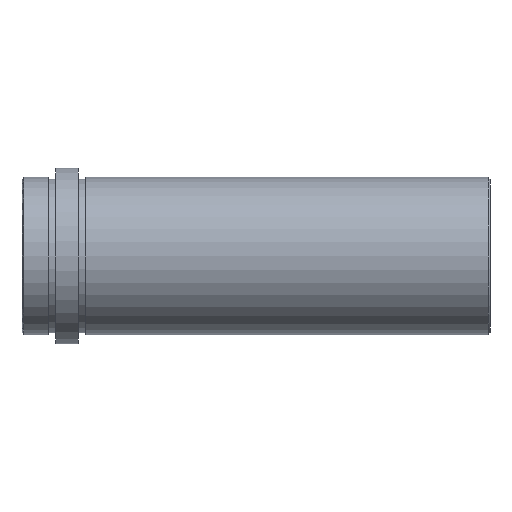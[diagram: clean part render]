
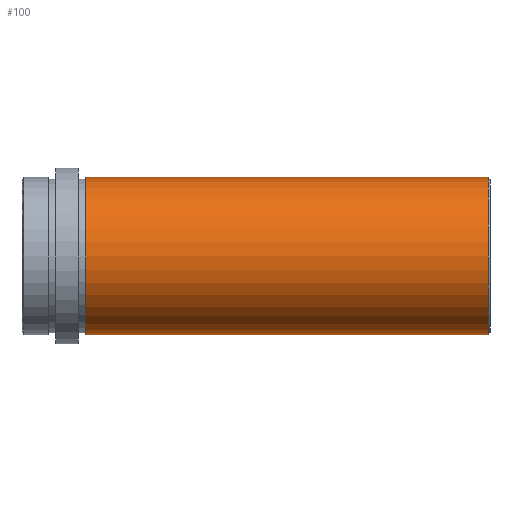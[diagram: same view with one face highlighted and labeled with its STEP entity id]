
A CAD part, front view. The second image highlights one B-rep face of the part: STEP entity #100.
In plain terms, the highlighted face is a revolution surface.
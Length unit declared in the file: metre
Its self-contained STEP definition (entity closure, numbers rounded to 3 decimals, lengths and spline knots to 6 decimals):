
#100 = ADVANCED_FACE( '', ( #157 ), #158, .F. );
#157 = FACE_OUTER_BOUND( '', #250, .T. );
#158 = SURFACE_OF_REVOLUTION( '', #251, #252 );
#250 = EDGE_LOOP( '', ( #419, #420, #421, #422 ) );
#251 = B_SPLINE_CURVE_WITH_KNOTS( '', 1, ( #423, #424 ), .UNSPECIFIED., .F., .F., ( 2, 2 ), ( -10000., 10000. ), .UNSPECIFIED. );
#252 = AXIS1_PLACEMENT( '', #425, #426 );
#419 = ORIENTED_EDGE( '', *, *, #492, .T. );
#420 = ORIENTED_EDGE( '', *, *, #490, .T. );
#421 = ORIENTED_EDGE( '', *, *, #445, .F. );
#422 = ORIENTED_EDGE( '', *, *, #489, .T. );
#423 = CARTESIAN_POINT( '', ( 10000.1245, 0., 0.021 ) );
#424 = CARTESIAN_POINT( '', ( -9999.8755, 0., 0.021 ) );
#425 = CARTESIAN_POINT( '', ( 0., 0., 0. ) );
#426 = DIRECTION( '', ( 1., 0., 0. ) );
#445 = EDGE_CURVE( '', #499, #500, #501, .T. );
#489 = EDGE_CURVE( '', #499, #571, #572, .F. );
#490 = EDGE_CURVE( '', #573, #500, #574, .T. );
#492 = EDGE_CURVE( '', #571, #573, #576, .T. );
#499 = VERTEX_POINT( '', #583 );
#500 = VERTEX_POINT( '', #584 );
#501 = CIRCLE( '', #585, 0.021 );
#571 = VERTEX_POINT( '', #671 );
#572 = LINE( '', #672, #673 );
#573 = VERTEX_POINT( '', #674 );
#574 = LINE( '', #675, #676 );
#576 = CIRCLE( '', #678, 0.021 );
#583 = CARTESIAN_POINT( '', ( 0.017, 0., -0.021 ) );
#584 = CARTESIAN_POINT( '', ( 0.017, 0., 0.021 ) );
#585 = AXIS2_PLACEMENT_3D( '', #689, #690, #691 );
#671 = CARTESIAN_POINT( '', ( 0.1245, 0., -0.021 ) );
#672 = CARTESIAN_POINT( '', ( 0.1245, 0., -0.021 ) );
#673 = VECTOR( '', #789, 1. );
#674 = CARTESIAN_POINT( '', ( 0.1245, 0., 0.021 ) );
#675 = CARTESIAN_POINT( '', ( 0.1245, 0., 0.021 ) );
#676 = VECTOR( '', #790, 1. );
#678 = AXIS2_PLACEMENT_3D( '', #794, #795, #796 );
#689 = CARTESIAN_POINT( '', ( 0.017, 0., 0. ) );
#690 = DIRECTION( '', ( -1., 0., 0. ) );
#691 = DIRECTION( '', ( 0., 0., 1. ) );
#789 = DIRECTION( '', ( -1., 0., 0. ) );
#790 = DIRECTION( '', ( -1., 0., 0. ) );
#794 = CARTESIAN_POINT( '', ( 0.1245, 0., 0. ) );
#795 = DIRECTION( '', ( -1., 0., 0. ) );
#796 = DIRECTION( '', ( 0., 0., 1. ) );
